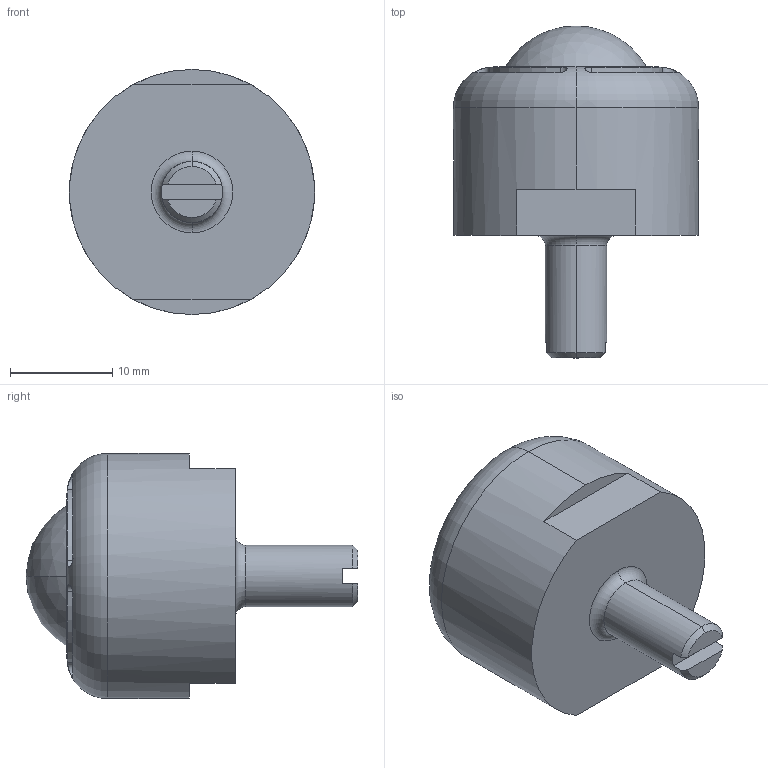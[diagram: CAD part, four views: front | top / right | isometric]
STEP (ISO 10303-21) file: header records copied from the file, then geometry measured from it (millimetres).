
FILE_DESCRIPTION (( 'STEP AP203' ), '1' );
FILE_NAME ('pvs20b.STEP', '2015-12-03T06:56:27', ( '' ), ( '' ), 'SwSTEP 2.0', 'SolidWorks 2013', '' );
FILE_SCHEMA (( 'CONFIG_CONTROL_DESIGN' ));
Length unit declared in the file: millimetre
Products named in the file (1): pvs20b
Bounding box: 24 x 32.5 x 24 mm (x, y, z)
Volume: 7572.8 mm3; surface area: 2572.4 mm2
Topology: 1 solids, 1 shells, 48 faces, 116 edges, 76 vertices
Faces by surface type: cylinder 24, plane 15, torus 4, cone 3, sphere 2
Entity records: 1592 total; most frequent: CARTESIAN_POINT 361, DIRECTION 257, ORIENTED_EDGE 232, EDGE_CURVE 116, AXIS2_PLACEMENT_3D 108, VERTEX_POINT 76, CIRCLE 59, EDGE_LOOP 54
